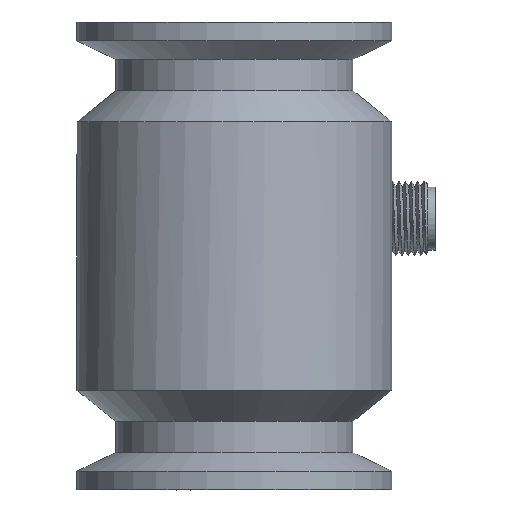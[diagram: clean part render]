
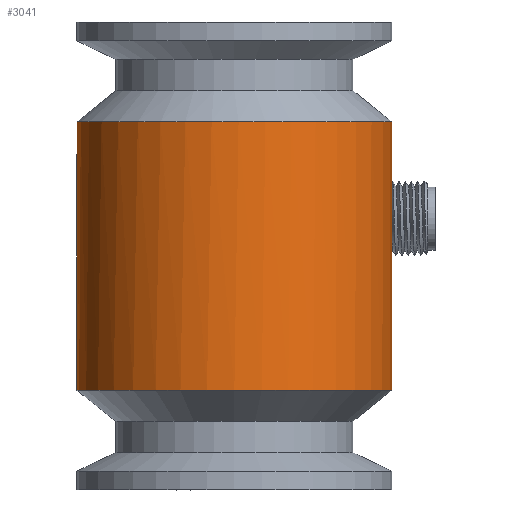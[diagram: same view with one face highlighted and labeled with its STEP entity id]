
A CAD part, front view. The second image highlights one B-rep face of the part: STEP entity #3041.
In plain terms, the highlighted cylindrical face has radius 25.25 mm (diameter 50.5 mm), a full revolution.
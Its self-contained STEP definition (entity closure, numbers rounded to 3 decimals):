
#2897=CYLINDRICAL_SURFACE('',#8379,25.25);
#3041=ADVANCED_FACE('',(#3731,#3732),#2897,.T.);
#3532=B_SPLINE_CURVE_WITH_KNOTS('',3,(#11100,#11101,#11102,#11103,#11104,
#11105,#11106,#11107,#11108,#11109,#11110,#11111,#11112,#11113,#11114,#11115,
#11116,#11117,#11118,#11119,#11120,#11121,#11122,#11123,#11124,#11125,#11126,
#11127),.UNSPECIFIED.,.F.,.F.,(4,2,2,2,2,2,2,2,2,2,2,2,2,4),(0.,0.063,
0.125,0.25,0.375,0.438,0.5,0.563,0.625,0.75,0.813,0.875,0.938,1.),
 .UNSPECIFIED.);
#3731=FACE_BOUND('',#3939,.T.);
#3732=FACE_BOUND('',#3940,.T.);
#3939=EDGE_LOOP('',(#4491));
#3940=EDGE_LOOP('',(#4492,#4493,#4494));
#4491=ORIENTED_EDGE('',*,*,#7042,.T.);
#4492=ORIENTED_EDGE('',*,*,#7041,.T.);
#4493=ORIENTED_EDGE('',*,*,#7043,.T.);
#4494=ORIENTED_EDGE('',*,*,#7039,.T.);
#6406=VERTEX_POINT('',#11089);
#6407=VERTEX_POINT('',#11090);
#6408=VERTEX_POINT('',#11095);
#6409=VERTEX_POINT('',#11099);
#7039=EDGE_CURVE('',#6406,#6407,#7998,.T.);
#7041=EDGE_CURVE('',#6407,#6408,#7999,.T.);
#7042=EDGE_CURVE('',#6409,#6409,#8000,.T.);
#7043=EDGE_CURVE('',#6408,#6406,#3532,.T.);
#7998=CIRCLE('',#8375,25.25);
#7999=CIRCLE('',#8376,25.25);
#8000=CIRCLE('',#8378,25.25);
#8375=AXIS2_PLACEMENT_3D('',#11088,#9155,#9156);
#8376=AXIS2_PLACEMENT_3D('',#11096,#9157,#9158);
#8378=AXIS2_PLACEMENT_3D('',#11098,#9161,#9162);
#8379=AXIS2_PLACEMENT_3D('',#11128,#9163,#9164);
#9155=DIRECTION('',(0.,0.,-1.));
#9156=DIRECTION('',(1.,0.,0.));
#9157=DIRECTION('',(0.,0.,-1.));
#9158=DIRECTION('',(1.,0.,0.));
#9161=DIRECTION('',(0.,0.,1.));
#9162=DIRECTION('',(-1.,0.,0.));
#9163=DIRECTION('',(0.,0.,-1.));
#9164=DIRECTION('',(1.,0.,0.));
#11088=CARTESIAN_POINT('',(0.,0.,13.5));
#11089=CARTESIAN_POINT('',(1.985,25.172,13.5));
#11090=CARTESIAN_POINT('',(25.25,0.,13.5));
#11095=CARTESIAN_POINT('',(-2.01,25.17,13.5));
#11096=CARTESIAN_POINT('',(0.,0.,13.5));
#11098=CARTESIAN_POINT('',(0.,0.,-29.5));
#11099=CARTESIAN_POINT('',(-25.25,0.,-29.5));
#11100=CARTESIAN_POINT('',(-2.01,25.17,13.5));
#11101=CARTESIAN_POINT('',(-3.88,25.02,13.205));
#11102=CARTESIAN_POINT('',(-5.666,24.659,12.488));
#11103=CARTESIAN_POINT('',(-8.756,23.738,10.458));
#11104=CARTESIAN_POINT('',(-10.071,23.185,9.155));
#11105=CARTESIAN_POINT('',(-13.254,21.621,4.617));
#11106=CARTESIAN_POINT('',(-14.292,20.818,0.831));
#11107=CARTESIAN_POINT('',(-13.863,21.106,-6.8));
#11108=CARTESIAN_POINT('',(-12.392,22.161,-10.435));
#11109=CARTESIAN_POINT('',(-8.718,23.735,-14.479));
#11110=CARTESIAN_POINT('',(-7.224,24.256,-15.617));
#11111=CARTESIAN_POINT('',(-3.858,25.013,-17.203));
#11112=CARTESIAN_POINT('',(-1.962,25.246,-17.65));
#11113=CARTESIAN_POINT('',(1.847,25.254,-17.664));
#11114=CARTESIAN_POINT('',(3.759,25.029,-17.227));
#11115=CARTESIAN_POINT('',(7.155,24.277,-15.647));
#11116=CARTESIAN_POINT('',(8.655,23.758,-14.513));
#11117=CARTESIAN_POINT('',(12.357,22.183,-10.461));
#11118=CARTESIAN_POINT('',(13.827,21.129,-6.817));
#11119=CARTESIAN_POINT('',(14.161,20.906,-1.134));
#11120=CARTESIAN_POINT('',(13.96,21.048,0.793));
#11121=CARTESIAN_POINT('',(12.96,21.678,4.426));
#11122=CARTESIAN_POINT('',(12.175,22.153,6.118));
#11123=CARTESIAN_POINT('',(10.053,23.193,9.148));
#11124=CARTESIAN_POINT('',(8.762,23.737,10.434));
#11125=CARTESIAN_POINT('',(5.645,24.664,12.489));
#11126=CARTESIAN_POINT('',(3.87,25.023,13.202));
#11127=CARTESIAN_POINT('',(1.985,25.172,13.5));
#11128=CARTESIAN_POINT('',(0.,0.,48.5));
